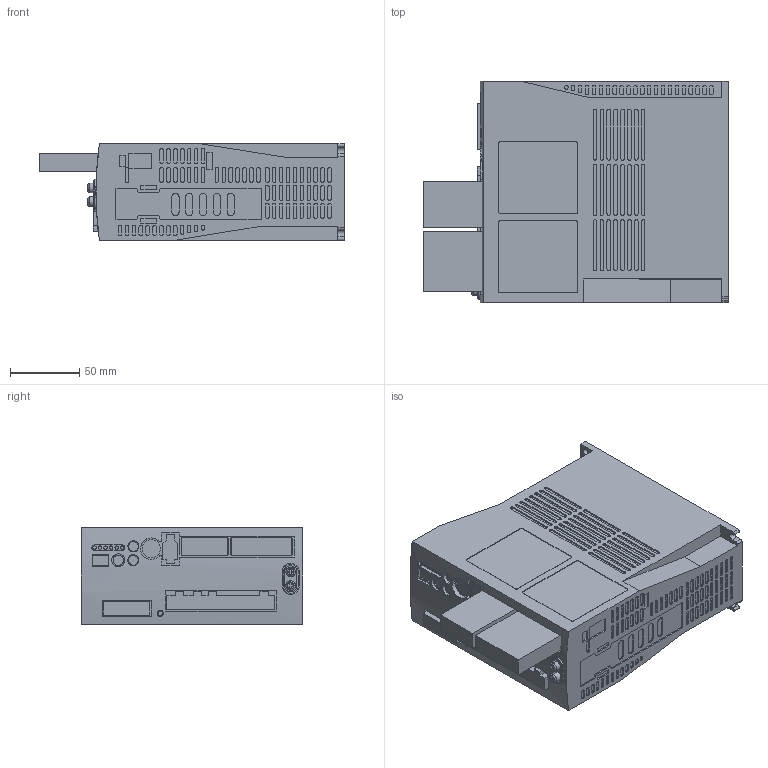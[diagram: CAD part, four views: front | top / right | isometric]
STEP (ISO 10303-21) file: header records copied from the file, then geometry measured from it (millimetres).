
FILE_DESCRIPTION( ( '' ), '1' );
FILE_NAME( 'c:/cad_url_generator/oriental/selction_from_product_tree/ac_servo_motors/nx_series/controller/NXD75-S.STEP', '2012-06-14T16:24:57', ( '' ), ( '' ), ' ', ' ', ' ' );
FILE_SCHEMA( ( 'CONFIG_CONTROL_DESIGN' ) );
Length unit declared in the file: millimetre
Products named in the file (1): 1
Bounding box: 221 x 160 x 70 mm (x, y, z)
Volume: 1983581.5 mm3; surface area: 124581.6 mm2
Topology: 1 solids, 1 shells, 1329 faces, 3241 edges, 2158 vertices
Faces by surface type: plane 849, cylinder 472, torus 8
Entity records: 39941 total; most frequent: CARTESIAN_POINT 7644, DIRECTION 6798, ORIENTED_EDGE 6482, EDGE_CURVE 3241, AXIS2_PLACEMENT_3D 2277, LINE 2244, VECTOR 2244, VERTEX_POINT 2158
